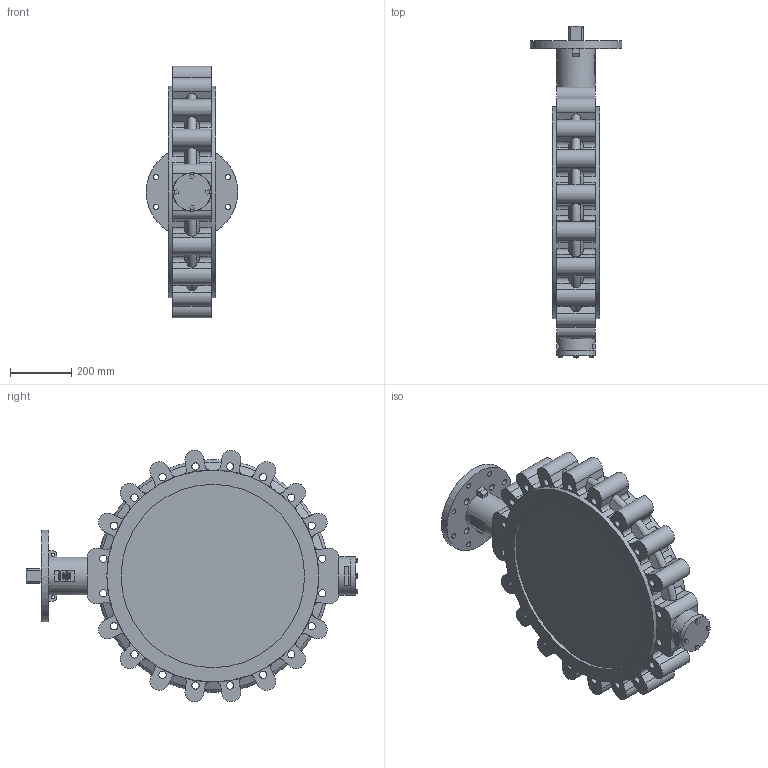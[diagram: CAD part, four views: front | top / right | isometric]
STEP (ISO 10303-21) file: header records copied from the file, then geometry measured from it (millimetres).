
FILE_DESCRIPTION(/* description */ (''),/* implementation_level */ '2;1');
FILE_NAME(/* name */ '6820-DN600-PN10-EPDM - 13332795.stp',/* time_stamp */ '2024-09-05T08:16:26+02:00',/* author */ ('roger.thijssen'),/* organization */ (''),/* preprocessor_version */ 'ST-DEVELOPER v20',/* originating_system */ 'Autodesk Inventor 2024',/* authorisation */ '');
FILE_SCHEMA (('AUTOMOTIVE_DESIGN { 1 0 10303 214 3 1 1 }'));
Length unit declared in the file: millimetre
Products named in the file (1): 6820-DN600-PN10
Bounding box: 300 x 1085.55 x 822.51 mm (x, y, z)
Volume: 67317911.1 mm3; surface area: 1960097.6 mm2
Topology: 1 solids, 1 shells, 743 faces, 2021 edges, 1325 vertices
Faces by surface type: plane 375, cylinder 171, bspline 138, cone 41, torus 18
Full cylindrical faces by diameter (mm): 6.647 x1, 10 x2, 12.88 x4, 18 x8, 22 x4, 23.752 x20, 124.8 x1, 125 x2, 300 x1, 600 x2, 693 x2
Entity records: 26957 total; most frequent: CARTESIAN_POINT 8224, ORIENTED_EDGE 4040, DIRECTION 3224, EDGE_CURVE 2020, VERTEX_POINT 1325, LINE 1092, VECTOR 1092, AXIS2_PLACEMENT_3D 1066
